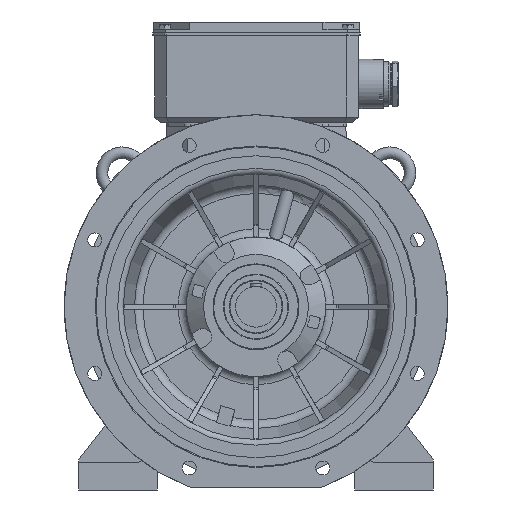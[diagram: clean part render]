
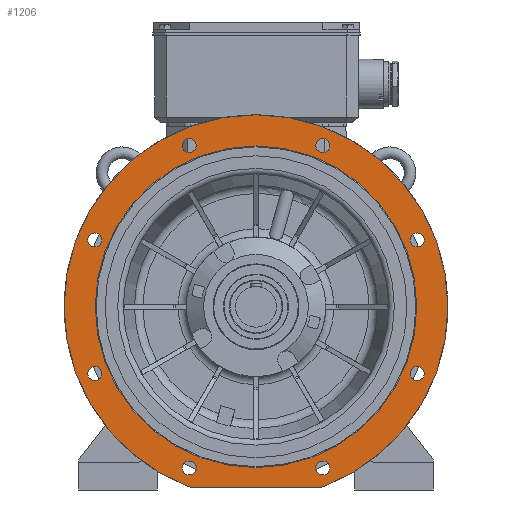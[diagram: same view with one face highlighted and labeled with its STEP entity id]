
A CAD part, front view. The second image highlights one B-rep face of the part: STEP entity #1206.
In plain terms, the highlighted planar face has unit normal (0, -1, 0).
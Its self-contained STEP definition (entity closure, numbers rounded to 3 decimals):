
#1206 = ADVANCED_FACE( '', ( #3618, #3619, #3620, #3621, #3622, #3623, #3624, #3625, #3626, #3627 ), #3628, .F. );
#3618 = FACE_OUTER_BOUND( '', #8012, .T. );
#3619 = FACE_BOUND( '', #8013, .T. );
#3620 = FACE_BOUND( '', #8014, .T. );
#3621 = FACE_BOUND( '', #8015, .T. );
#3622 = FACE_BOUND( '', #8016, .T. );
#3623 = FACE_BOUND( '', #8017, .T. );
#3624 = FACE_BOUND( '', #8018, .T. );
#3625 = FACE_BOUND( '', #8019, .T. );
#3626 = FACE_BOUND( '', #8020, .T. );
#3627 = FACE_BOUND( '', #8021, .T. );
#3628 = PLANE( '', #8022 );
#8012 = EDGE_LOOP( '', ( #18725, #18726, #18727, #18728 ) );
#8013 = EDGE_LOOP( '', ( #18729 ) );
#8014 = EDGE_LOOP( '', ( #18730 ) );
#8015 = EDGE_LOOP( '', ( #18731 ) );
#8016 = EDGE_LOOP( '', ( #18732 ) );
#8017 = EDGE_LOOP( '', ( #18733 ) );
#8018 = EDGE_LOOP( '', ( #18734 ) );
#8019 = EDGE_LOOP( '', ( #18735 ) );
#8020 = EDGE_LOOP( '', ( #18736 ) );
#8021 = EDGE_LOOP( '', ( #18737 ) );
#8022 = AXIS2_PLACEMENT_3D( '', #18738, #18739, #18740 );
#18725 = ORIENTED_EDGE( '', *, *, #26381, .T. );
#18726 = ORIENTED_EDGE( '', *, *, #25168, .F. );
#18727 = ORIENTED_EDGE( '', *, *, #26382, .T. );
#18728 = ORIENTED_EDGE( '', *, *, #26383, .F. );
#18729 = ORIENTED_EDGE( '', *, *, #26384, .F. );
#18730 = ORIENTED_EDGE( '', *, *, #26385, .F. );
#18731 = ORIENTED_EDGE( '', *, *, #26386, .F. );
#18732 = ORIENTED_EDGE( '', *, *, #26387, .F. );
#18733 = ORIENTED_EDGE( '', *, *, #26388, .F. );
#18734 = ORIENTED_EDGE( '', *, *, #26389, .F. );
#18735 = ORIENTED_EDGE( '', *, *, #26390, .F. );
#18736 = ORIENTED_EDGE( '', *, *, #26391, .F. );
#18737 = ORIENTED_EDGE( '', *, *, #25567, .F. );
#18738 = CARTESIAN_POINT( '', ( 0., -104.997, 276.4 ) );
#18739 = DIRECTION( '', ( 0., 1., 0. ) );
#18740 = DIRECTION( '', ( 1., 0., 0. ) );
#25168 = EDGE_CURVE( '', #30125, #30127, #30128, .T. );
#25567 = EDGE_CURVE( '', #30848, #30848, #30849, .F. );
#26381 = EDGE_CURVE( '', #32199, #30127, #32200, .F. );
#26382 = EDGE_CURVE( '', #30125, #32201, #32202, .F. );
#26383 = EDGE_CURVE( '', #32199, #32201, #32203, .T. );
#26384 = EDGE_CURVE( '', #32204, #32204, #32205, .F. );
#26385 = EDGE_CURVE( '', #32206, #32206, #32207, .F. );
#26386 = EDGE_CURVE( '', #32208, #32208, #32209, .F. );
#26387 = EDGE_CURVE( '', #32210, #32210, #32211, .F. );
#26388 = EDGE_CURVE( '', #32212, #32212, #32213, .F. );
#26389 = EDGE_CURVE( '', #32214, #32214, #32215, .F. );
#26390 = EDGE_CURVE( '', #32216, #32216, #32217, .F. );
#26391 = EDGE_CURVE( '', #32218, #32218, #32219, .F. );
#30125 = VERTEX_POINT( '', #40720 );
#30127 = VERTEX_POINT( '', #40723 );
#30128 = LINE( '', #40724, #40725 );
#30848 = VERTEX_POINT( '', #42827 );
#30849 = CIRCLE( '', #42828, 276.4 );
#32199 = VERTEX_POINT( '', #45538 );
#32200 = CIRCLE( '', #45539, 3. );
#32201 = VERTEX_POINT( '', #45540 );
#32202 = CIRCLE( '', #45541, 3. );
#32203 = CIRCLE( '', #45542, 330. );
#32204 = VERTEX_POINT( '', #45543 );
#32205 = CIRCLE( '', #45544, 12. );
#32206 = VERTEX_POINT( '', #45545 );
#32207 = CIRCLE( '', #45546, 12. );
#32208 = VERTEX_POINT( '', #45547 );
#32209 = CIRCLE( '', #45548, 12. );
#32210 = VERTEX_POINT( '', #45549 );
#32211 = CIRCLE( '', #45550, 12. );
#32212 = VERTEX_POINT( '', #45551 );
#32213 = CIRCLE( '', #45552, 12. );
#32214 = VERTEX_POINT( '', #45553 );
#32215 = CIRCLE( '', #45554, 12. );
#32216 = VERTEX_POINT( '', #45555 );
#32217 = CIRCLE( '', #45556, 12. );
#32218 = VERTEX_POINT( '', #45557 );
#32219 = CIRCLE( '', #45558, 12. );
#40720 = CARTESIAN_POINT( '', ( 112.606, -104.997, -310. ) );
#40723 = CARTESIAN_POINT( '', ( -112.606, -104.997, -310. ) );
#40724 = CARTESIAN_POINT( '', ( -113.137, -104.997, -310. ) );
#40725 = VECTOR( '', #51074, 1000. );
#42827 = CARTESIAN_POINT( '', ( 0., -104.997, 276.4 ) );
#42828 = AXIS2_PLACEMENT_3D( '', #51595, #51596, #51597 );
#45538 = CARTESIAN_POINT( '', ( -113.639, -104.997, -309.817 ) );
#45539 = AXIS2_PLACEMENT_3D( '', #52774, #52775, #52776 );
#45540 = CARTESIAN_POINT( '', ( 113.639, -104.997, -309.817 ) );
#45541 = AXIS2_PLACEMENT_3D( '', #52777, #52778, #52779 );
#45542 = AXIS2_PLACEMENT_3D( '', #52780, #52781, #52782 );
#45543 = CARTESIAN_POINT( '', ( -277.164, -104.997, 126.805 ) );
#45544 = AXIS2_PLACEMENT_3D( '', #52783, #52784, #52785 );
#45545 = CARTESIAN_POINT( '', ( -277.164, -104.997, -102.805 ) );
#45546 = AXIS2_PLACEMENT_3D( '', #52786, #52787, #52788 );
#45547 = CARTESIAN_POINT( '', ( -114.805, -104.997, -265.164 ) );
#45548 = AXIS2_PLACEMENT_3D( '', #52789, #52790, #52791 );
#45549 = CARTESIAN_POINT( '', ( 114.805, -104.997, -265.164 ) );
#45550 = AXIS2_PLACEMENT_3D( '', #52792, #52793, #52794 );
#45551 = CARTESIAN_POINT( '', ( 277.164, -104.997, -102.805 ) );
#45552 = AXIS2_PLACEMENT_3D( '', #52795, #52796, #52797 );
#45553 = CARTESIAN_POINT( '', ( 277.164, -104.997, 126.805 ) );
#45554 = AXIS2_PLACEMENT_3D( '', #52798, #52799, #52800 );
#45555 = CARTESIAN_POINT( '', ( 114.805, -104.997, 289.164 ) );
#45556 = AXIS2_PLACEMENT_3D( '', #52801, #52802, #52803 );
#45557 = CARTESIAN_POINT( '', ( -114.805, -104.997, 289.164 ) );
#45558 = AXIS2_PLACEMENT_3D( '', #52804, #52805, #52806 );
#51074 = DIRECTION( '', ( -1., 0., 0. ) );
#51595 = CARTESIAN_POINT( '', ( 0., -104.997, 0. ) );
#51596 = DIRECTION( '', ( 0., 1., 0. ) );
#51597 = DIRECTION( '', ( 0., 0., 1. ) );
#52774 = CARTESIAN_POINT( '', ( -112.606, -104.997, -307. ) );
#52775 = DIRECTION( '', ( 0., 1., 0. ) );
#52776 = DIRECTION( '', ( 0., 0., 1. ) );
#52777 = CARTESIAN_POINT( '', ( 112.606, -104.997, -307. ) );
#52778 = DIRECTION( '', ( 0., 1., 0. ) );
#52779 = DIRECTION( '', ( 0., 0., 1. ) );
#52780 = CARTESIAN_POINT( '', ( 0., -104.997, 0. ) );
#52781 = DIRECTION( '', ( 0., 1., 0. ) );
#52782 = DIRECTION( '', ( 0., 0., 1. ) );
#52783 = CARTESIAN_POINT( '', ( -277.164, -104.997, 114.805 ) );
#52784 = DIRECTION( '', ( 0., 1., 0. ) );
#52785 = DIRECTION( '', ( 0., 0., 1. ) );
#52786 = CARTESIAN_POINT( '', ( -277.164, -104.997, -114.805 ) );
#52787 = DIRECTION( '', ( 0., 1., 0. ) );
#52788 = DIRECTION( '', ( 0., 0., 1. ) );
#52789 = CARTESIAN_POINT( '', ( -114.805, -104.997, -277.164 ) );
#52790 = DIRECTION( '', ( 0., 1., 0. ) );
#52791 = DIRECTION( '', ( 0., 0., 1. ) );
#52792 = CARTESIAN_POINT( '', ( 114.805, -104.997, -277.164 ) );
#52793 = DIRECTION( '', ( 0., 1., 0. ) );
#52794 = DIRECTION( '', ( 0., 0., 1. ) );
#52795 = CARTESIAN_POINT( '', ( 277.164, -104.997, -114.805 ) );
#52796 = DIRECTION( '', ( 0., 1., 0. ) );
#52797 = DIRECTION( '', ( 0., 0., 1. ) );
#52798 = CARTESIAN_POINT( '', ( 277.164, -104.997, 114.805 ) );
#52799 = DIRECTION( '', ( 0., 1., 0. ) );
#52800 = DIRECTION( '', ( 0., 0., 1. ) );
#52801 = CARTESIAN_POINT( '', ( 114.805, -104.997, 277.164 ) );
#52802 = DIRECTION( '', ( 0., 1., 0. ) );
#52803 = DIRECTION( '', ( 0., 0., 1. ) );
#52804 = CARTESIAN_POINT( '', ( -114.805, -104.997, 277.164 ) );
#52805 = DIRECTION( '', ( 0., 1., 0. ) );
#52806 = DIRECTION( '', ( 0., 0., 1. ) );
